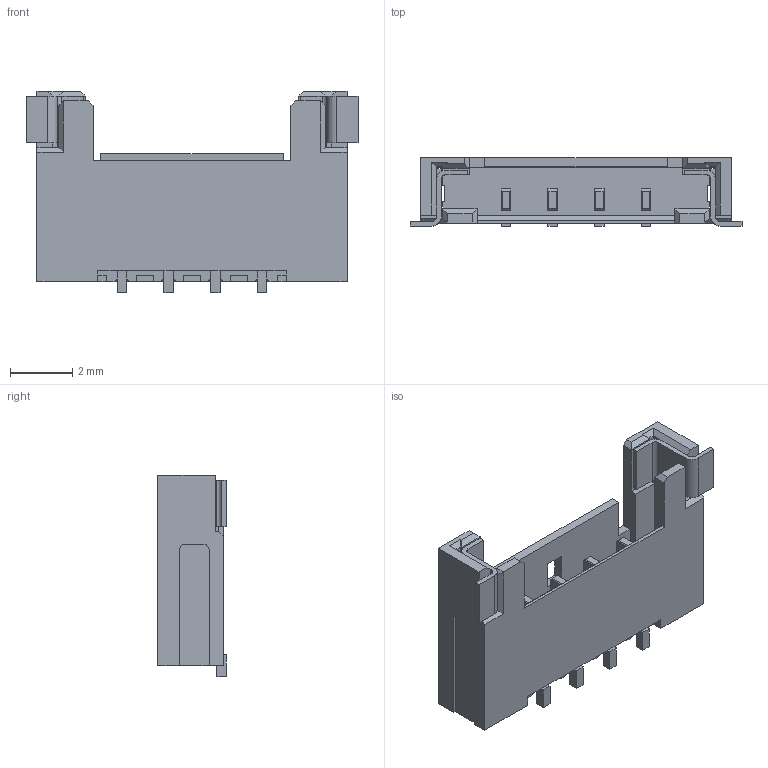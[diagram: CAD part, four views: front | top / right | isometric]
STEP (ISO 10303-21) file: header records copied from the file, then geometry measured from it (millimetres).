
FILE_DESCRIPTION (( 'STEP AP203' ), '1' );
FILE_NAME ('HC-CB1.5-4PWT-05 (1.50 閉情 等齬 拏泂-HCTL).STEP', '2025-11-22T07:32:36', ( '' ), ( '' ), 'SwSTEP 2.0', 'SolidWorks 2025', '' );
FILE_SCHEMA (( 'CONFIG_CONTROL_DESIGN' ));
Length unit declared in the file: millimetre
Products named in the file (1): HC-CB1.5-4PWT-05 (1.50 超薄 单排 卧贴-HCTL)
Bounding box: 10.65 x 2.2 x 6.45 mm (x, y, z)
Volume: 59 mm3; surface area: 282.7 mm2
Topology: 1 solids, 1 shells, 267 faces, 730 edges, 470 vertices
Faces by surface type: plane 255, cylinder 12
Entity records: 8319 total; most frequent: CARTESIAN_POINT 1468, ORIENTED_EDGE 1460, DIRECTION 1292, EDGE_CURVE 730, VECTOR 704, LINE 704, VERTEX_POINT 470, AXIS2_PLACEMENT_3D 294
